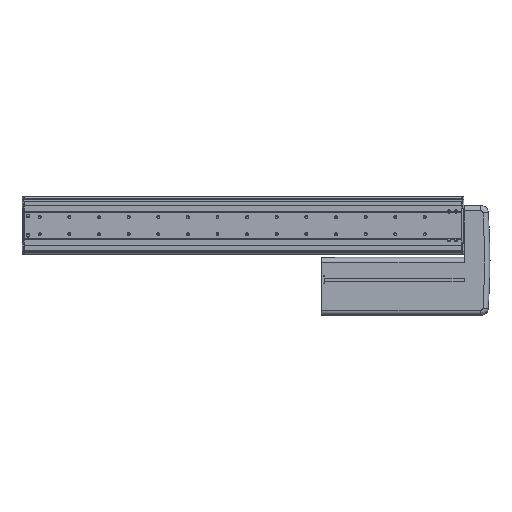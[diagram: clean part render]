
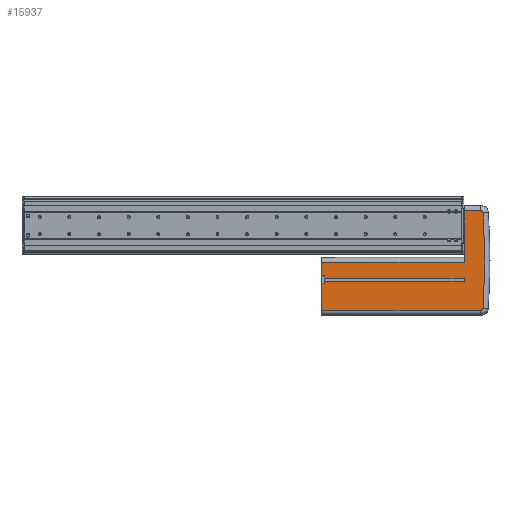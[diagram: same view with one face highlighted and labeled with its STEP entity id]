
A CAD part, front view. The second image highlights one B-rep face of the part: STEP entity #15937.
In plain terms, the highlighted planar face has unit normal (0, -1, 0).
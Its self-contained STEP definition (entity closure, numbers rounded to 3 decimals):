
#603=DIRECTION('',(-1.,0.,0.));
#604=VECTOR('',#603,189.);
#605=CARTESIAN_POINT('',(594.,5.,-75.1));
#606=LINE('',#605,#604);
#615=DIRECTION('',(0.,0.,1.));
#616=VECTOR('',#615,4.2);
#617=CARTESIAN_POINT('',(594.,5.,-75.1));
#618=LINE('',#617,#616);
#619=DIRECTION('',(0.,0.,-1.));
#620=VECTOR('',#619,3.4);
#621=CARTESIAN_POINT('',(405.,5.,-67.5));
#622=LINE('',#621,#620);
#623=DIRECTION('',(0.,0.,-1.));
#624=VECTOR('',#623,17.5);
#625=CARTESIAN_POINT('',(402.,5.,-50.));
#626=LINE('',#625,#624);
#627=DIRECTION('',(1.,0.,0.));
#628=VECTOR('',#627,192.);
#629=CARTESIAN_POINT('',(402.,5.,-50.));
#630=LINE('',#629,#628);
#631=DIRECTION('',(0.,0.,1.));
#632=VECTOR('',#631,70.);
#633=CARTESIAN_POINT('',(594.,5.,-50.));
#634=LINE('',#633,#632);
#635=CARTESIAN_POINT('',(616.587,5.,16.999));
#636=DIRECTION('',(0.,1.,0.));
#637=DIRECTION('',(0.,0.,1.));
#638=AXIS2_PLACEMENT_3D('',#635,#636,#637);
#640=CARTESIAN_POINT('',(-371.,5.,-47.));
#641=DIRECTION('',(0.,1.,0.));
#642=DIRECTION('',(0.998,0.,0.065));
#643=AXIS2_PLACEMENT_3D('',#640,#641,#642);
#645=CARTESIAN_POINT('',(616.587,5.,-110.999));
#646=DIRECTION('',(0.,1.,0.));
#647=DIRECTION('',(0.998,0.,-0.065));
#648=AXIS2_PLACEMENT_3D('',#645,#646,#647);
#650=DIRECTION('',(0.,0.,-1.));
#651=VECTOR('',#650,35.5);
#652=CARTESIAN_POINT('',(402.,5.,-78.5));
#653=LINE('',#652,#651);
#654=DIRECTION('',(0.,0.,-1.));
#655=VECTOR('',#654,3.4);
#656=CARTESIAN_POINT('',(405.,5.,-75.1));
#657=LINE('',#656,#655);
#674=DIRECTION('',(1.,0.,0.));
#675=VECTOR('',#674,189.);
#676=CARTESIAN_POINT('',(405.,5.,-70.9));
#677=LINE('',#676,#675);
#9414=DIRECTION('',(1.,0.,0.));
#9415=VECTOR('',#9414,192.);
#9416=CARTESIAN_POINT('',(402.,5.,-114.));
#9417=LINE('',#9416,#9415);
#9418=DIRECTION('',(1.,0.,0.));
#9419=VECTOR('',#9418,22.587);
#9420=CARTESIAN_POINT('',(594.,5.,-114.));
#9421=LINE('',#9420,#9419);
#9834=DIRECTION('',(-1.,0.,0.));
#9835=VECTOR('',#9834,22.587);
#9836=CARTESIAN_POINT('',(616.587,5.,20.));
#9837=LINE('',#9836,#9835);
#10099=DIRECTION('',(1.,0.,0.));
#10100=VECTOR('',#10099,3.);
#10101=CARTESIAN_POINT('',(402.,5.,-67.5));
#10102=LINE('',#10101,#10100);
#10123=DIRECTION('',(-1.,0.,0.));
#10124=VECTOR('',#10123,3.);
#10125=CARTESIAN_POINT('',(405.,5.,-78.5));
#10126=LINE('',#10125,#10124);
#12136=CARTESIAN_POINT('',(402.,5.,-114.));
#12137=VERTEX_POINT('',#12136);
#12138=CARTESIAN_POINT('',(402.,5.,-78.5));
#12139=VERTEX_POINT('',#12138);
#12148=CARTESIAN_POINT('',(402.,5.,-67.5));
#12149=VERTEX_POINT('',#12148);
#12150=CARTESIAN_POINT('',(402.,5.,-50.));
#12151=VERTEX_POINT('',#12150);
#12401=CARTESIAN_POINT('',(594.,5.,20.));
#12403=VERTEX_POINT('',#12401);
#12416=CARTESIAN_POINT('',(616.587,5.,
-114.));
#12417=VERTEX_POINT('',#12416);
#12418=CARTESIAN_POINT('',(619.582,5.,
-111.194));
#12419=VERTEX_POINT('',#12418);
#12420=CARTESIAN_POINT('',(619.582,5.,17.194));
#12421=VERTEX_POINT('',#12420);
#12422=CARTESIAN_POINT('',(616.587,5.,20.));
#12423=VERTEX_POINT('',#12422);
#12469=CARTESIAN_POINT('',(405.,5.,-75.1));
#12471=VERTEX_POINT('',#12469);
#12483=CARTESIAN_POINT('',(405.,5.,-70.9));
#12484=VERTEX_POINT('',#12483);
#14843=CARTESIAN_POINT('',(405.,5.,-67.5));
#14845=VERTEX_POINT('',#14843);
#14853=CARTESIAN_POINT('',(405.,5.,-78.5));
#14854=VERTEX_POINT('',#14853);
#15017=CARTESIAN_POINT('',(594.,5.,-75.1));
#15018=VERTEX_POINT('',#15017);
#15019=CARTESIAN_POINT('',(594.,5.,-70.9));
#15020=VERTEX_POINT('',#15019);
#15021=CARTESIAN_POINT('',(594.,5.,-50.));
#15022=VERTEX_POINT('',#15021);
#15029=CARTESIAN_POINT('',(594.,5.,-114.));
#15030=VERTEX_POINT('',#15029);
#15901=CARTESIAN_POINT('',(499.5,5.,-94.55));
#15902=DIRECTION('',(0.,1.,0.));
#15903=DIRECTION('',(0.,0.,-1.));
#15904=AXIS2_PLACEMENT_3D('',#15901,#15902,#15903);
#15905=PLANE('',#15904);
#15906=ORIENTED_EDGE('',*,*,#15571,.T.);
#15908=ORIENTED_EDGE('',*,*,#15907,.F.);
#15909=ORIENTED_EDGE('',*,*,#15432,.F.);
#15911=ORIENTED_EDGE('',*,*,#15910,.F.);
#15913=ORIENTED_EDGE('',*,*,#15912,.F.);
#15915=ORIENTED_EDGE('',*,*,#15914,.T.);
#15916=ORIENTED_EDGE('',*,*,#15792,.T.);
#15918=ORIENTED_EDGE('',*,*,#15917,.F.);
#15920=ORIENTED_EDGE('',*,*,#15919,.T.);
#15922=ORIENTED_EDGE('',*,*,#15921,.T.);
#15924=ORIENTED_EDGE('',*,*,#15923,.T.);
#15926=ORIENTED_EDGE('',*,*,#15925,.F.);
#15928=ORIENTED_EDGE('',*,*,#15927,.F.);
#15930=ORIENTED_EDGE('',*,*,#15929,.F.);
#15932=ORIENTED_EDGE('',*,*,#15931,.F.);
#15933=ORIENTED_EDGE('',*,*,#15448,.F.);
#15934=ORIENTED_EDGE('',*,*,#15891,.F.);
#15935=EDGE_LOOP('',(#15906,#15908,#15909,#15911,#15913,#15915,#15916,#15918,
#15920,#15922,#15924,#15926,#15928,#15930,#15932,#15933,#15934));
#15936=FACE_OUTER_BOUND('',#15935,.F.);
#15937=ADVANCED_FACE('',(#15936),#15905,.F.);
#639=CIRCLE('',#638,3.001);
#644=CIRCLE('',#643,992.66);
#649=CIRCLE('',#648,3.001);
#15432=EDGE_CURVE('',#14845,#12484,#622,.T.);
#15448=EDGE_CURVE('',#12471,#14854,#657,.T.);
#15571=EDGE_CURVE('',#15018,#15020,#618,.T.);
#15792=EDGE_CURVE('',#15022,#12403,#634,.T.);
#15891=EDGE_CURVE('',#15018,#12471,#606,.T.);
#15907=EDGE_CURVE('',#12484,#15020,#677,.T.);
#15910=EDGE_CURVE('',#12149,#14845,#10102,.T.);
#15912=EDGE_CURVE('',#12151,#12149,#626,.T.);
#15914=EDGE_CURVE('',#12151,#15022,#630,.T.);
#15917=EDGE_CURVE('',#12423,#12403,#9837,.T.);
#15919=EDGE_CURVE('',#12423,#12421,#639,.T.);
#15921=EDGE_CURVE('',#12421,#12419,#644,.T.);
#15923=EDGE_CURVE('',#12419,#12417,#649,.T.);
#15925=EDGE_CURVE('',#15030,#12417,#9421,.T.);
#15927=EDGE_CURVE('',#12137,#15030,#9417,.T.);
#15929=EDGE_CURVE('',#12139,#12137,#653,.T.);
#15931=EDGE_CURVE('',#14854,#12139,#10126,.T.);
